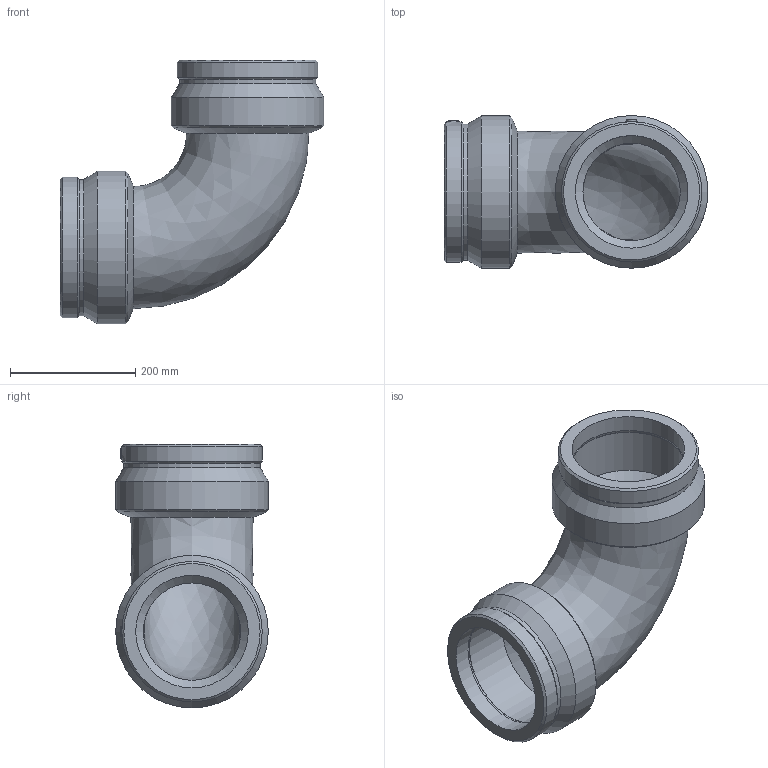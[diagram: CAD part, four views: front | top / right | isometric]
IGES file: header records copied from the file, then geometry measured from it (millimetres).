
Global section: file name: 490504180.ipt; native system: Autodesk Inventor 2015; preprocessor: unknown; author: KIM; date: 20171106.093642; units: millimetre
Bounding box: 421.76 x 244 x 421.76 mm (x, y, z)
Volume: 7214668.9 mm3; surface area: 680566.5 mm2
Topology: 1 solids, 1 shells, 42 faces, 98 edges, 64 vertices
Faces by surface type: revolution 12, cone 12, plane 10, cylinder 8
Full cylindrical faces by diameter (mm): 4 x2, 217.746 x2, 224.48 x2, 244 x2
